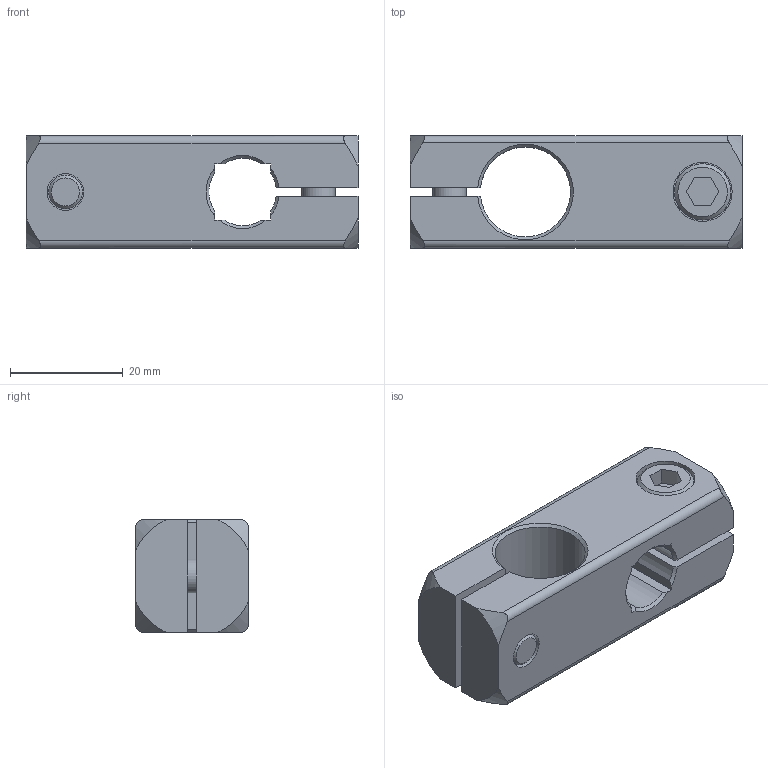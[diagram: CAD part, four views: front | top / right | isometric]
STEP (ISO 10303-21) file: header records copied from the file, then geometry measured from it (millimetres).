
FILE_DESCRIPTION( ( 'STEP AP203' ), '1' );
FILE_NAME( 'C:/Temp/Ganter_Step_05_03_2020/data/3_7/gn_474/Two-way clamp mounting GN 474-B16-B12-ELS.stp', '2020-03-12T14:44:51', ( 'License CC BY-ND 4.0' ), ( 'CADENAS' ), ' ', 'PARTsolutions', ' ' );
FILE_SCHEMA( ( 'CONFIG_CONTROL_DESIGN' ) );
Length unit declared in the file: millimetre
Products named in the file (1): _Two-way clamp mounting GN 474-B16-B12-ELS
Bounding box: 59 x 20 x 20 mm (x, y, z)
Volume: 15940.4 mm3; surface area: 9093.5 mm2
Topology: 1 solids, 1 shells, 86 faces, 220 edges, 146 vertices
Faces by surface type: plane 42, cone 24, cylinder 20
Full cylindrical faces by diameter (mm): 6 x2, 6.5 x4, 10 x2, 10.5 x2
Entity records: 2712 total; most frequent: CARTESIAN_POINT 675, ORIENTED_EDGE 408, DIRECTION 386, EDGE_CURVE 204, VERTEX_POINT 144, AXIS2_PLACEMENT_3D 143, EDGE_LOOP 114, LINE 100
